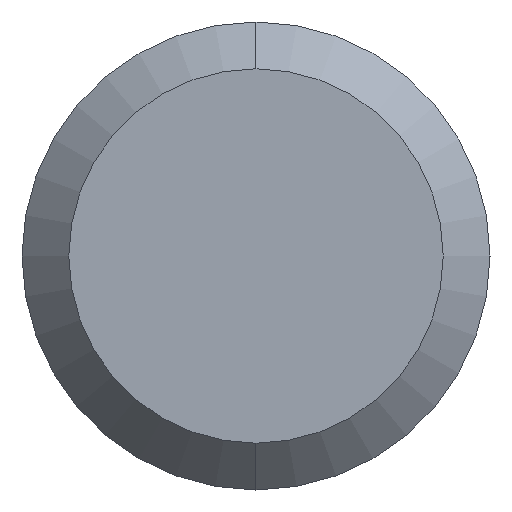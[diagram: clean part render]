
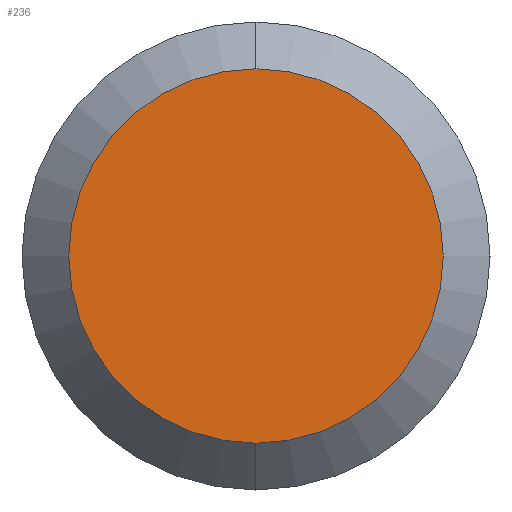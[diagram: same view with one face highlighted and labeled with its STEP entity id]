
A CAD part, left-side view. The second image highlights one B-rep face of the part: STEP entity #236.
In plain terms, the highlighted planar face has unit normal (-1, 0, 0).
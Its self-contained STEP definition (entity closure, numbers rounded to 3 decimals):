
#14 = AXIS2_PLACEMENT_3D ( 'NONE', #137, #259, #142 ) ;
#21 = VERTEX_POINT ( 'NONE', #227 ) ;
#61 = DIRECTION ( 'NONE',  ( 0., 0., 1. ) ) ;
#73 = DIRECTION ( 'NONE',  ( 0., 0., -1. ) ) ;
#75 = VERTEX_POINT ( 'NONE', #116 ) ;
#100 = CIRCLE ( 'NONE', #305, 6.4 ) ;
#104 = EDGE_CURVE ( 'NONE', #21, #75, #100, .T. ) ;
#116 = CARTESIAN_POINT ( 'NONE',  ( 0., 0., 6.4 ) ) ;
#125 = EDGE_CURVE ( 'NONE', #75, #21, #307, .T. ) ;
#137 = CARTESIAN_POINT ( 'NONE',  ( 0., 0., 0. ) ) ;
#142 = DIRECTION ( 'NONE',  ( 0., 0., 1. ) ) ;
#168 = CARTESIAN_POINT ( 'NONE',  ( 0., 0., 0. ) ) ;
#200 = DIRECTION ( 'NONE',  ( 1., 0., 0. ) ) ;
#204 = EDGE_LOOP ( 'NONE', ( #224, #233 ) ) ;
#224 = ORIENTED_EDGE ( 'NONE', *, *, #104, .T. ) ;
#227 = CARTESIAN_POINT ( 'NONE',  ( 0., 0., -6.4 ) ) ;
#230 = PLANE ( 'NONE',  #351 ) ;
#233 = ORIENTED_EDGE ( 'NONE', *, *, #125, .T. ) ;
#236 = ADVANCED_FACE ( 'NONE', ( #272 ), #230, .F. ) ;
#252 = DIRECTION ( 'NONE',  ( -1., 0., 0. ) ) ;
#259 = DIRECTION ( 'NONE',  ( -1., 0., 0. ) ) ;
#272 = FACE_OUTER_BOUND ( 'NONE', #204, .T. ) ;
#305 = AXIS2_PLACEMENT_3D ( 'NONE', #168, #252, #61 ) ;
#307 = CIRCLE ( 'NONE', #14, 6.4 ) ;
#334 = CARTESIAN_POINT ( 'NONE',  ( 0., 6.4, 0. ) ) ;
#351 = AXIS2_PLACEMENT_3D ( 'NONE', #334, #200, #73 ) ;
